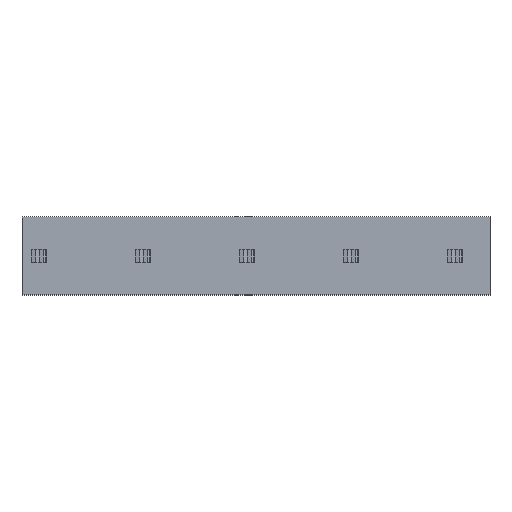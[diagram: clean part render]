
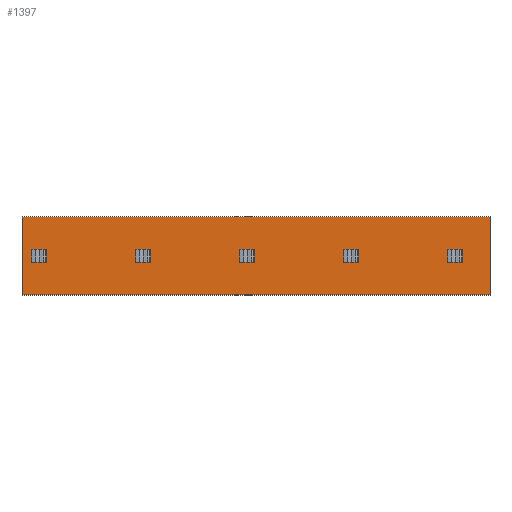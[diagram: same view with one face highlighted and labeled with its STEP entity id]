
A CAD part, top view. The second image highlights one B-rep face of the part: STEP entity #1397.
In plain terms, the highlighted planar face has unit normal (0, 0, 1).
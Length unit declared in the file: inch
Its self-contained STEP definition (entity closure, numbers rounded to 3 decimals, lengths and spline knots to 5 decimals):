
#119=FACE_OUTER_BOUND('',#217,.T.);
#217=EDGE_LOOP('',(#939,#940,#941,#942));
#311=LINE('',#2104,#467);
#315=LINE('',#2112,#471);
#318=LINE('',#2118,#474);
#321=LINE('',#2123,#477);
#467=VECTOR('',#1648,12.);
#471=VECTOR('',#1654,72.);
#474=VECTOR('',#1659,12.);
#477=VECTOR('',#1664,72.);
#623=VERTEX_POINT('',#2102);
#624=VERTEX_POINT('',#2103);
#627=VERTEX_POINT('',#2111);
#629=VERTEX_POINT('',#2117);
#727=EDGE_CURVE('',#623,#624,#311,.T.);
#731=EDGE_CURVE('',#624,#627,#315,.T.);
#734=EDGE_CURVE('',#627,#629,#318,.T.);
#737=EDGE_CURVE('',#629,#623,#321,.T.);
#939=ORIENTED_EDGE('',*,*,#727,.F.);
#940=ORIENTED_EDGE('',*,*,#737,.F.);
#941=ORIENTED_EDGE('',*,*,#734,.F.);
#942=ORIENTED_EDGE('',*,*,#731,.F.);
#1319=PLANE('',#1499);
#1397=ADVANCED_FACE('',(#119),#1319,.T.);
#1499=AXIS2_PLACEMENT_3D('',#2125,#1666,#1667);
#1648=DIRECTION('',(0.,-1.,0.));
#1654=DIRECTION('',(-1.,0.,0.));
#1659=DIRECTION('',(0.,1.,0.));
#1664=DIRECTION('',(1.,0.,0.));
#1666=DIRECTION('center_axis',(0.,0.,1.));
#1667=DIRECTION('ref_axis',(1.,0.,0.));
#2102=CARTESIAN_POINT('',(36.,6.,0.0593));
#2103=CARTESIAN_POINT('',(36.,-6.,0.0593));
#2104=CARTESIAN_POINT('',(36.,6.,0.0593));
#2111=CARTESIAN_POINT('',(-36.,-6.,0.0593));
#2112=CARTESIAN_POINT('',(36.,-6.,0.0593));
#2117=CARTESIAN_POINT('',(-36.,6.,0.0593));
#2118=CARTESIAN_POINT('',(-36.,-6.,0.0593));
#2123=CARTESIAN_POINT('',(-36.,6.,0.0593));
#2125=CARTESIAN_POINT('Origin',(0.,0.,
0.0593));
